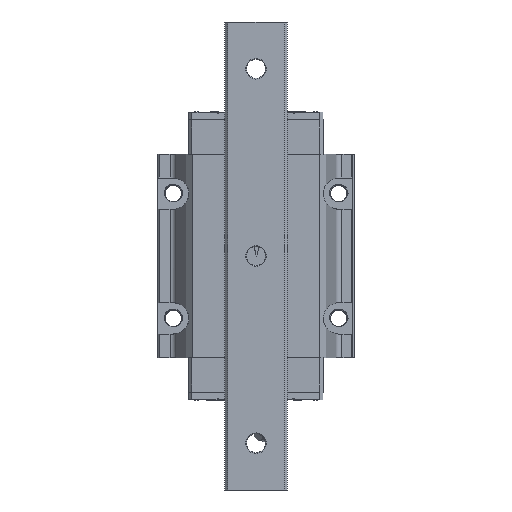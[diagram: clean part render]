
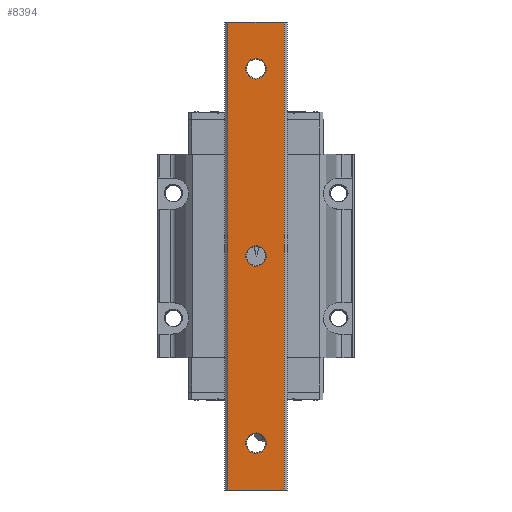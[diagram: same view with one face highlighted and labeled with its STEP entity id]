
A CAD part, front view. The second image highlights one B-rep face of the part: STEP entity #8394.
In plain terms, the highlighted planar face has unit normal (0, -1, 0).
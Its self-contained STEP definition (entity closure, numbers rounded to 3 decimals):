
#7894=FACE_BOUND('',#11072,.T.);
#7895=FACE_BOUND('',#11073,.T.);
#7896=FACE_BOUND('',#11074,.T.);
#7897=FACE_BOUND('',#11075,.T.);
#8394=ADVANCED_FACE('',(#7894,#7895,#7896,#7897),#9474,.T.);
#9474=PLANE('',#26928);
#11072=EDGE_LOOP('',(#15811,#15812,#15813,#15814));
#11073=EDGE_LOOP('',(#15815,#15816,#15817,#15818));
#11074=EDGE_LOOP('',(#15819,#15820,#15821,#15822));
#11075=EDGE_LOOP('',(#15823,#15824,#15825,#15826));
#12284=LINE('',#33368,#13934);
#12323=LINE('',#33492,#13973);
#12324=LINE('',#33494,#13974);
#12325=LINE('',#33496,#13975);
#13934=VECTOR('',#28459,1.);
#13973=VECTOR('',#28582,1.);
#13974=VECTOR('',#28585,1.);
#13975=VECTOR('',#28586,1.);
#15811=ORIENTED_EDGE('',*,*,#23476,.T.);
#15812=ORIENTED_EDGE('',*,*,#23477,.F.);
#15813=ORIENTED_EDGE('',*,*,#23478,.F.);
#15814=ORIENTED_EDGE('',*,*,#23414,.T.);
#15815=ORIENTED_EDGE('',*,*,#23479,.F.);
#15816=ORIENTED_EDGE('',*,*,#23480,.F.);
#15817=ORIENTED_EDGE('',*,*,#23481,.F.);
#15818=ORIENTED_EDGE('',*,*,#23482,.F.);
#15819=ORIENTED_EDGE('',*,*,#23483,.F.);
#15820=ORIENTED_EDGE('',*,*,#23484,.F.);
#15821=ORIENTED_EDGE('',*,*,#23485,.F.);
#15822=ORIENTED_EDGE('',*,*,#23486,.F.);
#15823=ORIENTED_EDGE('',*,*,#23487,.F.);
#15824=ORIENTED_EDGE('',*,*,#23488,.F.);
#15825=ORIENTED_EDGE('',*,*,#23489,.F.);
#15826=ORIENTED_EDGE('',*,*,#23490,.F.);
#21499=VERTEX_POINT('',#33367);
#21500=VERTEX_POINT('',#33369);
#21542=VERTEX_POINT('',#33491);
#21543=VERTEX_POINT('',#33495);
#21544=VERTEX_POINT('',#33498);
#21545=VERTEX_POINT('',#33499);
#21546=VERTEX_POINT('',#33501);
#21547=VERTEX_POINT('',#33503);
#21548=VERTEX_POINT('',#33506);
#21549=VERTEX_POINT('',#33507);
#21550=VERTEX_POINT('',#33509);
#21551=VERTEX_POINT('',#33511);
#21552=VERTEX_POINT('',#33514);
#21553=VERTEX_POINT('',#33515);
#21554=VERTEX_POINT('',#33517);
#21555=VERTEX_POINT('',#33519);
#23414=EDGE_CURVE('',#21500,#21499,#12284,.T.);
#23476=EDGE_CURVE('',#21499,#21542,#12323,.T.);
#23477=EDGE_CURVE('',#21543,#21542,#12324,.T.);
#23478=EDGE_CURVE('',#21500,#21543,#12325,.T.);
#23479=EDGE_CURVE('',#21544,#21545,#26323,.T.);
#23480=EDGE_CURVE('',#21546,#21544,#26324,.T.);
#23481=EDGE_CURVE('',#21547,#21546,#26325,.T.);
#23482=EDGE_CURVE('',#21545,#21547,#26326,.T.);
#23483=EDGE_CURVE('',#21548,#21549,#26327,.T.);
#23484=EDGE_CURVE('',#21550,#21548,#26328,.T.);
#23485=EDGE_CURVE('',#21551,#21550,#26329,.T.);
#23486=EDGE_CURVE('',#21549,#21551,#26330,.T.);
#23487=EDGE_CURVE('',#21552,#21553,#26331,.T.);
#23488=EDGE_CURVE('',#21554,#21552,#26332,.T.);
#23489=EDGE_CURVE('',#21555,#21554,#26333,.T.);
#23490=EDGE_CURVE('',#21553,#21555,#26334,.T.);
#26323=CIRCLE('',#26916,3.3);
#26324=CIRCLE('',#26917,3.3);
#26325=CIRCLE('',#26918,3.3);
#26326=CIRCLE('',#26919,3.3);
#26327=CIRCLE('',#26920,3.3);
#26328=CIRCLE('',#26921,3.3);
#26329=CIRCLE('',#26922,3.3);
#26330=CIRCLE('',#26923,3.3);
#26331=CIRCLE('',#26924,3.3);
#26332=CIRCLE('',#26925,3.3);
#26333=CIRCLE('',#26926,3.3);
#26334=CIRCLE('',#26927,3.3);
#26916=AXIS2_PLACEMENT_3D('',#33497,#28587,#28588);
#26917=AXIS2_PLACEMENT_3D('',#33500,#28589,#28590);
#26918=AXIS2_PLACEMENT_3D('',#33502,#28591,#28592);
#26919=AXIS2_PLACEMENT_3D('',#33504,#28593,#28594);
#26920=AXIS2_PLACEMENT_3D('',#33505,#28595,#28596);
#26921=AXIS2_PLACEMENT_3D('',#33508,#28597,#28598);
#26922=AXIS2_PLACEMENT_3D('',#33510,#28599,#28600);
#26923=AXIS2_PLACEMENT_3D('',#33512,#28601,#28602);
#26924=AXIS2_PLACEMENT_3D('',#33513,#28603,#28604);
#26925=AXIS2_PLACEMENT_3D('',#33516,#28605,#28606);
#26926=AXIS2_PLACEMENT_3D('',#33518,#28607,#28608);
#26927=AXIS2_PLACEMENT_3D('',#33520,#28609,#28610);
#26928=AXIS2_PLACEMENT_3D('',#33521,#28611,#28612);
#28459=DIRECTION('',(1.,0.,0.));
#28582=DIRECTION('',(0.,0.,1.));
#28585=DIRECTION('',(1.,0.,0.));
#28586=DIRECTION('',(0.,0.,1.));
#28587=DIRECTION('',(0.,-1.,0.));
#28588=DIRECTION('',(0.,0.,-1.));
#28589=DIRECTION('',(0.,-1.,0.));
#28590=DIRECTION('',(-1.,0.,0.));
#28591=DIRECTION('',(0.,-1.,0.));
#28592=DIRECTION('',(0.,0.,1.));
#28593=DIRECTION('',(0.,-1.,0.));
#28594=DIRECTION('',(1.,0.,0.));
#28595=DIRECTION('',(0.,-1.,0.));
#28596=DIRECTION('',(0.,0.,1.));
#28597=DIRECTION('',(0.,-1.,0.));
#28598=DIRECTION('',(1.,0.,0.));
#28599=DIRECTION('',(0.,-1.,0.));
#28600=DIRECTION('',(0.,0.,-1.));
#28601=DIRECTION('',(0.,-1.,0.));
#28602=DIRECTION('',(-1.,0.,0.));
#28603=DIRECTION('',(0.,-1.,0.));
#28604=DIRECTION('',(0.,0.,1.));
#28605=DIRECTION('',(0.,-1.,0.));
#28606=DIRECTION('',(1.,0.,0.));
#28607=DIRECTION('',(0.,-1.,0.));
#28608=DIRECTION('',(0.,0.,-1.));
#28609=DIRECTION('',(0.,-1.,0.));
#28610=DIRECTION('',(-1.,0.,0.));
#28611=DIRECTION('',(0.,-1.,0.));
#28612=DIRECTION('',(1.,0.,0.));
#33367=CARTESIAN_POINT('',(9.,-17.5,-75.));
#33368=CARTESIAN_POINT('',(-9.,-17.5,-75.));
#33369=CARTESIAN_POINT('',(-9.,-17.5,-75.));
#33491=CARTESIAN_POINT('',(9.,-17.5,75.));
#33492=CARTESIAN_POINT('',(9.,-17.5,-75.));
#33494=CARTESIAN_POINT('',(-9.,-17.5,75.));
#33495=CARTESIAN_POINT('',(-9.,-17.5,75.));
#33496=CARTESIAN_POINT('',(-9.,-17.5,-75.));
#33497=CARTESIAN_POINT('',(0.,-17.5,-60.));
#33498=CARTESIAN_POINT('',(0.,-17.5,-63.3));
#33499=CARTESIAN_POINT('',(3.3,-17.5,-60.));
#33500=CARTESIAN_POINT('',(0.,-17.5,-60.));
#33501=CARTESIAN_POINT('',(-3.3,-17.5,-60.));
#33502=CARTESIAN_POINT('',(0.,-17.5,-60.));
#33503=CARTESIAN_POINT('',(0.,-17.5,-56.7));
#33504=CARTESIAN_POINT('',(0.,-17.5,-60.));
#33505=CARTESIAN_POINT('',(0.,-17.5,0.));
#33506=CARTESIAN_POINT('',(0.,-17.5,3.3));
#33507=CARTESIAN_POINT('',(-3.3,-17.5,0.));
#33508=CARTESIAN_POINT('',(0.,-17.5,0.));
#33509=CARTESIAN_POINT('',(3.3,-17.5,0.));
#33510=CARTESIAN_POINT('',(0.,-17.5,0.));
#33511=CARTESIAN_POINT('',(0.,-17.5,-3.3));
#33512=CARTESIAN_POINT('',(0.,-17.5,0.));
#33513=CARTESIAN_POINT('',(0.,-17.5,60.));
#33514=CARTESIAN_POINT('',(0.,-17.5,63.3));
#33515=CARTESIAN_POINT('',(-3.3,-17.5,60.));
#33516=CARTESIAN_POINT('',(0.,-17.5,60.));
#33517=CARTESIAN_POINT('',(3.3,-17.5,60.));
#33518=CARTESIAN_POINT('',(0.,-17.5,60.));
#33519=CARTESIAN_POINT('',(0.,-17.5,56.7));
#33520=CARTESIAN_POINT('',(0.,-17.5,60.));
#33521=CARTESIAN_POINT('',(-9.,-17.5,-75.));
